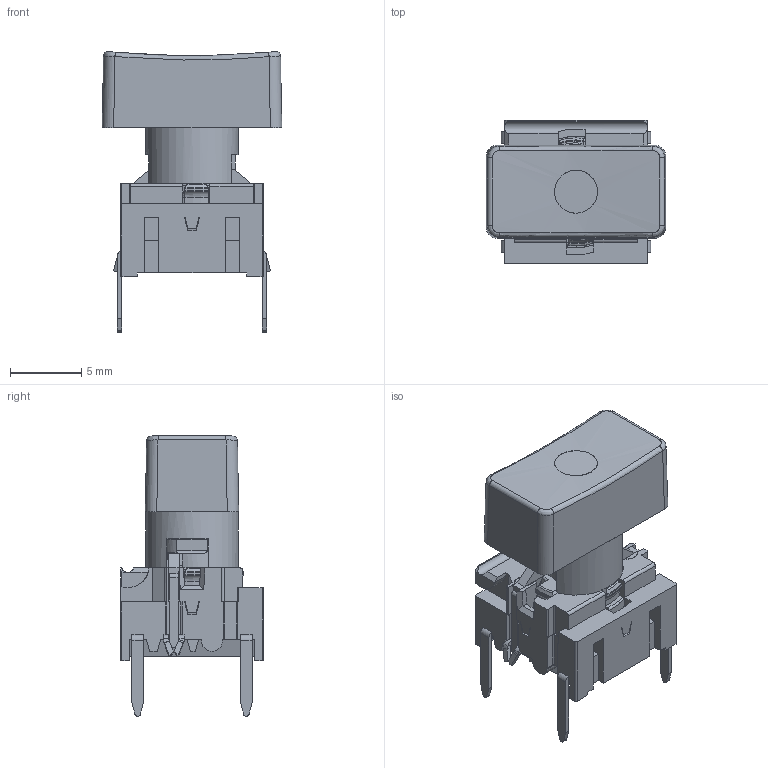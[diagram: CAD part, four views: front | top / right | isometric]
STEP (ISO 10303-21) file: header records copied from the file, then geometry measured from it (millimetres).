
FILE_DESCRIPTION(/* description */ (''),/* implementation_level */ '2;1');
FILE_NAME(/* name */ 'C:\Users\cgh.MEC\Desktop\Traceparts - 3D programserie\STEP filer\il-TH\5GTH9xxxxxxx+1RS.stp',/* time_stamp */ '2016-02-29T07:54:59+01:00',/* author */ ('cgh'),/* organization */ (''),/* preprocessor_version */ 'ST-DEVELOPER v15.2',/* originating_system */ 'Autodesk Inventor 2014',/* authorisation */ '');
FILE_SCHEMA (('AUTOMOTIVE_DESIGN { 1 0 10303 214 3 1 1 }'));
Length unit declared in the file: centimetre
Products named in the file (1): cgh
Bounding box: 12.56 x 10 x 19.62 mm (x, y, z)
Volume: 710.4 mm3; surface area: 1770.7 mm2
Topology: 1 solids, 1 shells, 1353 faces, 3853 edges, 2518 vertices
Faces by surface type: plane 854, cylinder 250, bspline 122, torus 86, cone 35, sphere 6
Full cylindrical faces by diameter (mm): 0.9 x1, 1 x3, 2.8 x1, 3 x1, 4.73 x1, 5.2 x1, 6.5 x2, 7.44 x1
Entity records: 47595 total; most frequent: CARTESIAN_POINT 11674, ORIENTED_EDGE 7610, DIRECTION 6628, EDGE_CURVE 3805, VERTEX_POINT 2502, LINE 2498, VECTOR 2498, AXIS2_PLACEMENT_3D 2065
